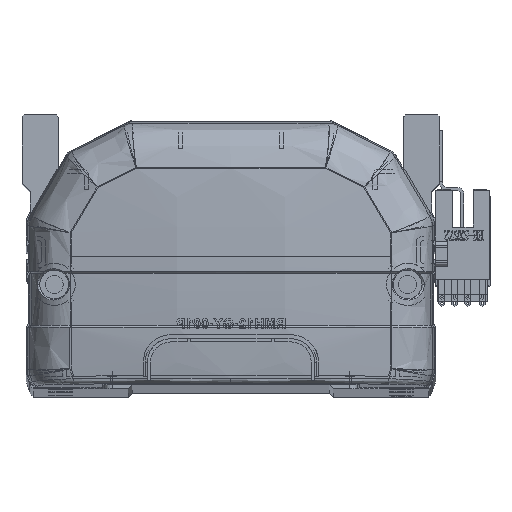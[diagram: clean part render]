
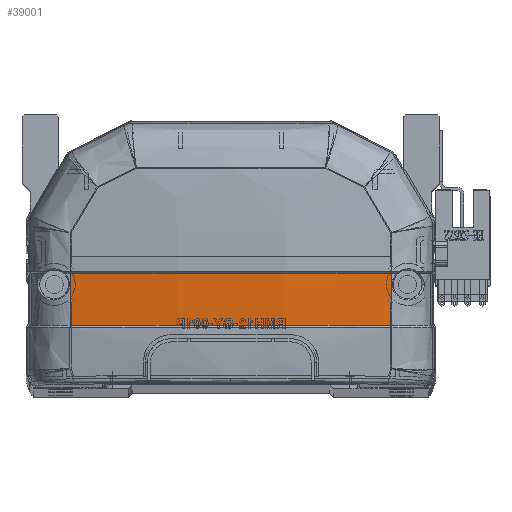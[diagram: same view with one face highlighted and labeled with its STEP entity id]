
A CAD part, top view. The second image highlights one B-rep face of the part: STEP entity #39001.
In plain terms, the highlighted free-form (B-spline) face has degree [3, 3] with [4, 4] control points.
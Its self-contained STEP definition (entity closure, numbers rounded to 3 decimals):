
#973 = CARTESIAN_POINT ( 'NONE',  ( -39.985, 15.83, -5.879 ) ) ;
#2038 = B_SPLINE_CURVE_WITH_KNOTS ( 'NONE', 3,
 ( #41373, #17976, #22655, #22453 ),
 .UNSPECIFIED., .F., .F.,
 ( 4, 4 ),
 ( 0., 1. ),
 .UNSPECIFIED. ) ;
#2951 = CARTESIAN_POINT ( 'NONE',  ( 40.461, 20.111, -6.066 ) ) ;
#3369 = CARTESIAN_POINT ( 'NONE',  ( 13.598, 19.918, -10.302 ) ) ;
#3755 = CARTESIAN_POINT ( 'NONE',  ( -13.598, 15.499, -10.032 ) ) ;
#4840 = CARTESIAN_POINT ( 'NONE',  ( 26.749, 28.706, -8.432 ) ) ;
#5483 = EDGE_CURVE ( 'NONE', #34229, #26171, #8417, .T. ) ;
#6884 = CARTESIAN_POINT ( 'NONE',  ( 13.38, 15.83, -8.984 ) ) ;
#7082 = CARTESIAN_POINT ( 'NONE',  ( -6.692, 15.83, -8.984 ) ) ;
#7610 = CARTESIAN_POINT ( 'NONE',  ( 13.598, 28.769, -10.535 ) ) ;
#8417 = B_SPLINE_CURVE_WITH_KNOTS ( 'NONE', 3,
 ( #42082, #9624, #42495, #46802 ),
 .UNSPECIFIED., .F., .F.,
 ( 4, 4 ),
 ( 0., 1. ),
 .UNSPECIFIED. ) ;
#9041 = ORIENTED_EDGE ( 'NONE', *, *, #14187, .T. ) ;
#9624 = CARTESIAN_POINT ( 'NONE',  ( 39.973, 20.12, -6.142 ) ) ;
#9676 = CARTESIAN_POINT ( 'NONE',  ( -13.373, 28.707, -9.468 ) ) ;
#11693 = VERTEX_POINT ( 'NONE', #57977 ) ;
#14187 = EDGE_CURVE ( 'NONE', #11693, #41316, #2038, .T. ) ;
#15710 = CARTESIAN_POINT ( 'NONE',  ( -36.679, 15.83, -6.395 ) ) ;
#17976 = CARTESIAN_POINT ( 'NONE',  ( -39.966, 24.412, -6.306 ) ) ;
#18166 = CARTESIAN_POINT ( 'NONE',  ( -39.963, 28.706, -6.372 ) ) ;
#18222 = EDGE_LOOP ( 'NONE', ( #19889, #38992, #9041, #50218 ) ) ;
#18742 = CARTESIAN_POINT ( 'NONE',  ( 39.963, 28.706, -6.372 ) ) ;
#19889 = ORIENTED_EDGE ( 'NONE', *, *, #5483, .T. ) ;
#20343 = B_SPLINE_CURVE_WITH_KNOTS ( 'NONE', 3,
 ( #38265, #25302, #6884, #7082, #58526, #24898, #43796, #44410, #15710, #39900 ),
 .UNSPECIFIED., .F., .F.,
 ( 4, 2, 2, 2, 4 ),
 ( 0., 0.04, 0.06, 0.07, 0.08 ),
 .UNSPECIFIED. ) ;
#21731 = CARTESIAN_POINT ( 'NONE',  ( -13.598, 28.769, -10.535 ) ) ;
#22453 = CARTESIAN_POINT ( 'NONE',  ( -39.985, 15.83, -5.879 ) ) ;
#22655 = CARTESIAN_POINT ( 'NONE',  ( -39.973, 20.118, -6.142 ) ) ;
#24898 = CARTESIAN_POINT ( 'NONE',  ( -23.389, 15.83, -7.947 ) ) ;
#25302 = CARTESIAN_POINT ( 'NONE',  ( 26.761, 15.83, -7.945 ) ) ;
#26171 = VERTEX_POINT ( 'NONE', #18742 ) ;
#26259 = CARTESIAN_POINT ( 'NONE',  ( 13.598, 24.342, -10.47 ) ) ;
#27082 = CARTESIAN_POINT ( 'NONE',  ( -13.598, 24.342, -10.47 ) ) ;
#27801 = B_SPLINE_CURVE_WITH_KNOTS ( 'NONE', 3,
 ( #18166, #55712, #9676, #51607, #4840, #60808 ),
 .UNSPECIFIED., .F., .F.,
 ( 4, 2, 4 ),
 ( 0., 0.5, 1. ),
 .UNSPECIFIED. ) ;
#31396 = CARTESIAN_POINT ( 'NONE',  ( 13.598, 15.499, -10.032 ) ) ;
#31614 = FACE_OUTER_BOUND ( 'NONE', #18222, .T. ) ;
#34229 = VERTEX_POINT ( 'NONE', #44823 ) ;
#35189 = EDGE_CURVE ( 'NONE', #11693, #26171, #27801, .T. ) ;
#35934 = CARTESIAN_POINT ( 'NONE',  ( 40.461, 28.832, -6.296 ) ) ;
#36135 = CARTESIAN_POINT ( 'NONE',  ( 40.461, 15.757, -5.8 ) ) ;
#38265 = CARTESIAN_POINT ( 'NONE',  ( 39.985, 15.83, -5.879 ) ) ;
#38992 = ORIENTED_EDGE ( 'NONE', *, *, #35189, .F. ) ;
#39001 = ADVANCED_FACE ( 'NONE', ( #31614 ), #45439, .F. ) ;
#39421 = EDGE_CURVE ( 'NONE', #34229, #41316, #20343, .T. ) ;
#39900 = CARTESIAN_POINT ( 'NONE',  ( -39.985, 15.83, -5.879 ) ) ;
#41316 = VERTEX_POINT ( 'NONE', #973 ) ;
#41373 = CARTESIAN_POINT ( 'NONE',  ( -39.963, 28.706, -6.372 ) ) ;
#42082 = CARTESIAN_POINT ( 'NONE',  ( 39.985, 15.83, -5.879 ) ) ;
#42495 = CARTESIAN_POINT ( 'NONE',  ( 39.966, 24.413, -6.306 ) ) ;
#43796 = CARTESIAN_POINT ( 'NONE',  ( -26.721, 15.83, -7.624 ) ) ;
#44410 = CARTESIAN_POINT ( 'NONE',  ( -33.365, 15.83, -6.848 ) ) ;
#44823 = CARTESIAN_POINT ( 'NONE',  ( 39.985, 15.83, -5.879 ) ) ;
#45349 = CARTESIAN_POINT ( 'NONE',  ( -13.598, 19.918, -10.302 ) ) ;
#45439 =( BOUNDED_SURFACE ( )  B_SPLINE_SURFACE ( 3, 3, ( 
 ( #36135, #2951, #54802, #35934 ),
 ( #31396, #3369, #26259, #7610 ),
 ( #3755, #45349, #27082, #21731 ),
 ( #50280, #50068, #59692, #54587 ) ),
 .UNSPECIFIED., .F., .F., .F. ) 
 B_SPLINE_SURFACE_WITH_KNOTS ( ( 4, 4 ),
 ( 4, 4 ),
 ( 0., 1. ),
 ( 0., 1. ),
 .UNSPECIFIED. ) 
 GEOMETRIC_REPRESENTATION_ITEM ( )  RATIONAL_B_SPLINE_SURFACE ( (
 ( 1., 1., 1., 1.),
 ( 0.992, 0.992, 0.992, 0.992),
 ( 0.992, 0.992, 0.992, 0.992),
 ( 1., 1., 1., 1.) ) ) 
 REPRESENTATION_ITEM ( '' )  SURFACE ( )  );
#46802 = CARTESIAN_POINT ( 'NONE',  ( 39.963, 28.706, -6.372 ) ) ;
#50068 = CARTESIAN_POINT ( 'NONE',  ( -40.461, 20.111, -6.066 ) ) ;
#50218 = ORIENTED_EDGE ( 'NONE', *, *, #39421, .F. ) ;
#50280 = CARTESIAN_POINT ( 'NONE',  ( -40.461, 15.757, -5.8 ) ) ;
#51607 = CARTESIAN_POINT ( 'NONE',  ( 13.375, 28.707, -9.468 ) ) ;
#54587 = CARTESIAN_POINT ( 'NONE',  ( -40.461, 28.832, -6.296 ) ) ;
#54802 = CARTESIAN_POINT ( 'NONE',  ( 40.461, 24.47, -6.231 ) ) ;
#55712 = CARTESIAN_POINT ( 'NONE',  ( -26.748, 28.706, -8.432 ) ) ;
#57977 = CARTESIAN_POINT ( 'NONE',  ( -39.963, 28.706, -6.372 ) ) ;
#58526 = CARTESIAN_POINT ( 'NONE',  ( -13.384, 15.83, -8.724 ) ) ;
#59692 = CARTESIAN_POINT ( 'NONE',  ( -40.461, 24.47, -6.231 ) ) ;
#60808 = CARTESIAN_POINT ( 'NONE',  ( 39.963, 28.706, -6.372 ) ) ;
